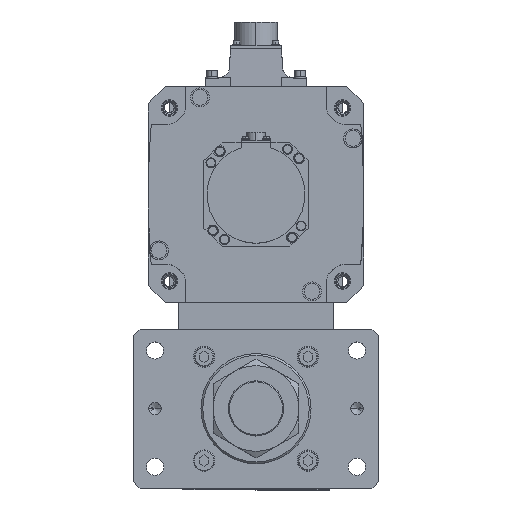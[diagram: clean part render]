
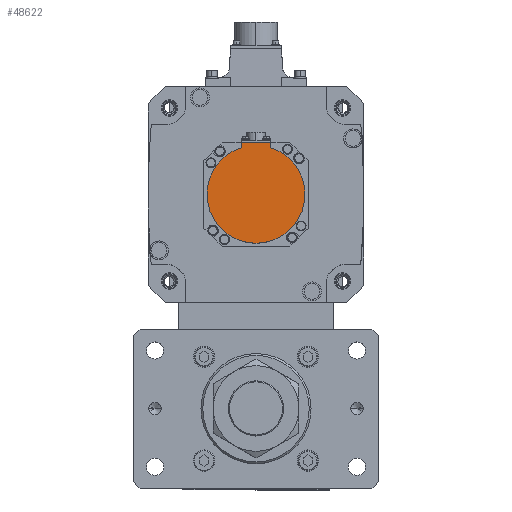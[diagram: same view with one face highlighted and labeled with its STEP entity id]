
A CAD part, top view. The second image highlights one B-rep face of the part: STEP entity #48622.
In plain terms, the highlighted planar face has unit normal (0, 0, 1) as drawn and (0, 0, -1) by its records, which use the part's own axes.
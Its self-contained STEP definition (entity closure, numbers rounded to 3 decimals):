
#466 = VECTOR ( 'NONE', #31899, 1000. ) ;
#1011 = ORIENTED_EDGE ( 'NONE', *, *, #30578, .T. ) ;
#5057 = DIRECTION ( 'NONE',  ( 0., 0., 1. ) ) ;
#5062 = EDGE_CURVE ( 'NONE', #50964, #34743, #43709, .T. ) ;
#5390 = VERTEX_POINT ( 'NONE', #28846 ) ;
#7821 = VERTEX_POINT ( 'NONE', #21493 ) ;
#8853 = CARTESIAN_POINT ( 'NONE',  ( -12., -40.329, -138.5 ) ) ;
#10304 = EDGE_CURVE ( 'NONE', #12029, #34743, #26444, .T. ) ;
#12029 = VERTEX_POINT ( 'NONE', #16805 ) ;
#14618 = DIRECTION ( 'NONE',  ( 1., 0., 0. ) ) ;
#15599 = LINE ( 'NONE', #29377, #29433 ) ;
#16614 = ORIENTED_EDGE ( 'NONE', *, *, #51191, .F. ) ;
#16805 = CARTESIAN_POINT ( 'NONE',  ( -12., -42.5, -138.5 ) ) ;
#17686 = FACE_OUTER_BOUND ( 'NONE', #32975, .T. ) ;
#17737 = DIRECTION ( 'NONE',  ( -1., 0., 0. ) ) ;
#18303 = AXIS2_PLACEMENT_3D ( 'NONE', #49737, #45899, #31189 ) ;
#18979 = EDGE_CURVE ( 'NONE', #7821, #50964, #20944, .T. ) ;
#20944 = CIRCLE ( 'NONE', #18303, 40. ) ;
#21493 = CARTESIAN_POINT ( 'NONE',  ( 40., 0., -138.5 ) ) ;
#21566 = ORIENTED_EDGE ( 'NONE', *, *, #33659, .F. ) ;
#21626 = CARTESIAN_POINT ( 'NONE',  ( 0., 0., -138.5 ) ) ;
#22179 = CARTESIAN_POINT ( 'NONE',  ( -12., -38.158, -138.5 ) ) ;
#23003 = DIRECTION ( 'NONE',  ( 1., 0., 0. ) ) ;
#24380 = DIRECTION ( 'NONE',  ( 0., 1., 0. ) ) ;
#25135 = DIRECTION ( 'NONE',  ( 1., 0., 0. ) ) ;
#26444 = LINE ( 'NONE', #8853, #35866 ) ;
#27051 = DIRECTION ( 'NONE',  ( 0., 0., 1. ) ) ;
#27227 = CARTESIAN_POINT ( 'NONE',  ( 0., -1.249, -138.5 ) ) ;
#28583 = ORIENTED_EDGE ( 'NONE', *, *, #18979, .F. ) ;
#28846 = CARTESIAN_POINT ( 'NONE',  ( 12., -42.5, -138.5 ) ) ;
#29377 = CARTESIAN_POINT ( 'NONE',  ( 0., -42.5, -138.5 ) ) ;
#29433 = VECTOR ( 'NONE', #17737, 1000. ) ;
#30126 = AXIS2_PLACEMENT_3D ( 'NONE', #27227, #27051, #23003 ) ;
#30578 = EDGE_CURVE ( 'NONE', #5390, #12029, #15599, .T. ) ;
#30840 = VERTEX_POINT ( 'NONE', #38831 ) ;
#31189 = DIRECTION ( 'NONE',  ( 1., 0., 0. ) ) ;
#31899 = DIRECTION ( 'NONE',  ( 0., 1., 0. ) ) ;
#32975 = EDGE_LOOP ( 'NONE', ( #39075, #37190, #28583, #21566, #16614, #1011 ) ) ;
#33190 = LINE ( 'NONE', #47836, #466 ) ;
#33659 = EDGE_CURVE ( 'NONE', #30840, #7821, #51301, .T. ) ;
#34743 = VERTEX_POINT ( 'NONE', #22179 ) ;
#35866 = VECTOR ( 'NONE', #24380, 1000. ) ;
#37190 = ORIENTED_EDGE ( 'NONE', *, *, #5062, .F. ) ;
#38022 = AXIS2_PLACEMENT_3D ( 'NONE', #21626, #5057, #25135 ) ;
#38365 = DIRECTION ( 'NONE',  ( 0., 0., 1. ) ) ;
#38708 = CARTESIAN_POINT ( 'NONE',  ( 0., 0., -138.5 ) ) ;
#38831 = CARTESIAN_POINT ( 'NONE',  ( 12., -38.158, -138.5 ) ) ;
#39075 = ORIENTED_EDGE ( 'NONE', *, *, #10304, .T. ) ;
#43709 = CIRCLE ( 'NONE', #44548, 40. ) ;
#44548 = AXIS2_PLACEMENT_3D ( 'NONE', #38708, #38365, #14618 ) ;
#45899 = DIRECTION ( 'NONE',  ( 0., 0., 1. ) ) ;
#46497 = PLANE ( 'NONE',  #30126 ) ;
#47836 = CARTESIAN_POINT ( 'NONE',  ( 12., -1.249, -138.5 ) ) ;
#48622 = ADVANCED_FACE ( 'NONE', ( #17686 ), #46497, .F. ) ;
#49072 = CARTESIAN_POINT ( 'NONE',  ( -40., 0., -138.5 ) ) ;
#49737 = CARTESIAN_POINT ( 'NONE',  ( 0., 0., -138.5 ) ) ;
#50964 = VERTEX_POINT ( 'NONE', #49072 ) ;
#51191 = EDGE_CURVE ( 'NONE', #5390, #30840, #33190, .T. ) ;
#51301 = CIRCLE ( 'NONE', #38022, 40. ) ;
